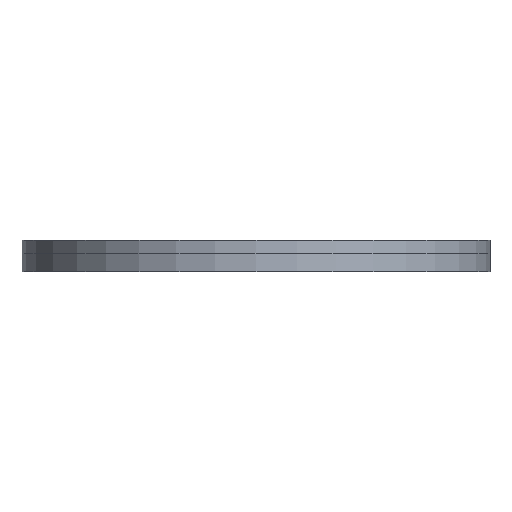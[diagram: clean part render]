
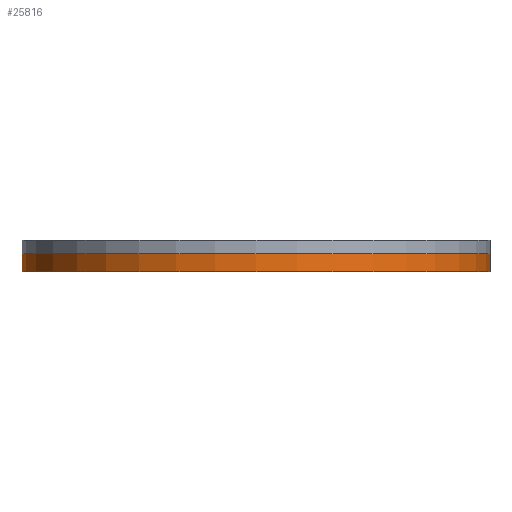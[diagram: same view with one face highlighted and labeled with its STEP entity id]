
A CAD part, front view. The second image highlights one B-rep face of the part: STEP entity #25816.
In plain terms, the highlighted cylindrical face has radius 15 mm (diameter 30 mm), a full revolution.
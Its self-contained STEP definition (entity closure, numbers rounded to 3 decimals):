
#558=CIRCLE('',#26066,15.);
#559=CIRCLE('',#26152,15.);
#561=CYLINDRICAL_SURFACE('',#26170,15.);
#2222=FACE_OUTER_BOUND('',#3671,.T.);
#3671=EDGE_LOOP('',(#23470,#23471,#23472,#23473));
#5405=LINE('',#53879,#7138);
#7138=VECTOR('',#28490,15.);
#10383=VERTEX_POINT('',#40156);
#11678=VERTEX_POINT('',#53859);
#13668=EDGE_CURVE('',#10383,#10383,#558,.T.);
#15610=EDGE_CURVE('',#11678,#11678,#559,.T.);
#15611=EDGE_CURVE('',#10383,#11678,#5405,.T.);
#23470=ORIENTED_EDGE('',*,*,#13668,.T.);
#23471=ORIENTED_EDGE('',*,*,#15611,.T.);
#23472=ORIENTED_EDGE('',*,*,#15610,.T.);
#23473=ORIENTED_EDGE('',*,*,#15611,.F.);
#25816=ADVANCED_FACE('',(#2222),#561,.T.);
#26066=AXIS2_PLACEMENT_3D('',#40157,#27499,#27500);
#26152=AXIS2_PLACEMENT_3D('',#53860,#28452,#28453);
#26170=AXIS2_PLACEMENT_3D('',#53878,#28488,#28489);
#27499=DIRECTION('center_axis',(0.,0.,-1.));
#27500=DIRECTION('ref_axis',(1.,0.,0.));
#28452=DIRECTION('center_axis',(0.,0.,1.));
#28453=DIRECTION('ref_axis',(1.,0.,0.));
#28488=DIRECTION('center_axis',(0.,0.,1.));
#28489=DIRECTION('ref_axis',(1.,0.,0.));
#28490=DIRECTION('',(0.,0.,-1.));
#40156=CARTESIAN_POINT('',(0.,-15.,1.16));
#40157=CARTESIAN_POINT('Origin',(15.,-15.,1.16));
#53859=CARTESIAN_POINT('',(0.,-15.,0.));
#53860=CARTESIAN_POINT('Origin',(15.,-15.,0.));
#53878=CARTESIAN_POINT('Origin',(15.,-15.,0.));
#53879=CARTESIAN_POINT('',(0.,-15.,0.));
